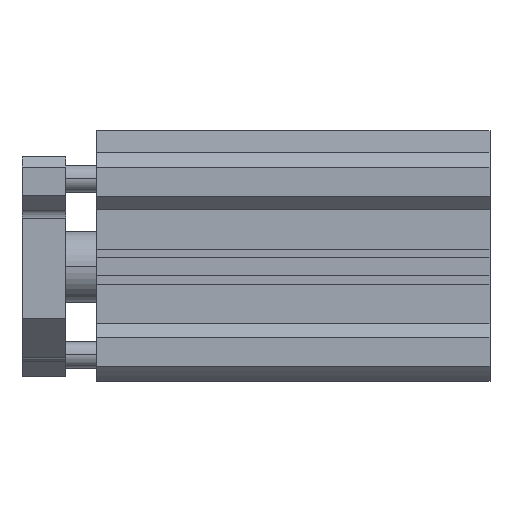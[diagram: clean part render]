
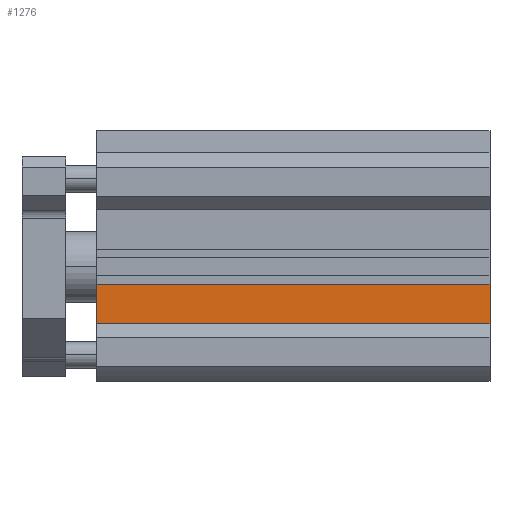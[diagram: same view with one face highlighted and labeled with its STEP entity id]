
A CAD part, top view. The second image highlights one B-rep face of the part: STEP entity #1276.
In plain terms, the highlighted planar face has unit normal (0, 0, 1).
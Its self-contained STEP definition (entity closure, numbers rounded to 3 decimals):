
#412 = VERTEX_POINT ( 'NONE', #2444 ) ;
#543 = VECTOR ( 'NONE', #1733, 1000. ) ;
#549 = CARTESIAN_POINT ( 'NONE',  ( 89.5, -4., 23. ) ) ;
#571 = LINE ( 'NONE', #549, #543 ) ;
#594 = PLANE ( 'NONE',  #948 ) ;
#743 = EDGE_CURVE ( 'NONE', #412, #3028, #571, .T. ) ;
#911 = VERTEX_POINT ( 'NONE', #3414 ) ;
#948 = AXIS2_PLACEMENT_3D ( 'NONE', #2167, #4560, #4905 ) ;
#989 = CARTESIAN_POINT ( 'NONE',  ( 89.5, -13., 23. ) ) ;
#1178 = DIRECTION ( 'NONE',  ( 0., -1., 0. ) ) ;
#1276 = ADVANCED_FACE ( 'NONE', ( #3334 ), #594, .F. ) ;
#1295 = ORIENTED_EDGE ( 'NONE', *, *, #4446, .F. ) ;
#1414 = VERTEX_POINT ( 'NONE', #3885 ) ;
#1506 = VECTOR ( 'NONE', #4047, 1000. ) ;
#1733 = DIRECTION ( 'NONE',  ( 0., -1., 0. ) ) ;
#1927 = VECTOR ( 'NONE', #4010, 1000. ) ;
#2006 = VECTOR ( 'NONE', #1178, 1000. ) ;
#2167 = CARTESIAN_POINT ( 'NONE',  ( 89.5, -4., 23. ) ) ;
#2444 = CARTESIAN_POINT ( 'NONE',  ( 89.5, -4., 23. ) ) ;
#2463 = CARTESIAN_POINT ( 'NONE',  ( 89.5, -13., 23. ) ) ;
#2483 = LINE ( 'NONE', #989, #1506 ) ;
#2509 = EDGE_CURVE ( 'NONE', #1414, #911, #3143, .T. ) ;
#2600 = ORIENTED_EDGE ( 'NONE', *, *, #743, .F. ) ;
#2630 = EDGE_CURVE ( 'NONE', #412, #1414, #3197, .T. ) ;
#3028 = VERTEX_POINT ( 'NONE', #2463 ) ;
#3095 = CARTESIAN_POINT ( 'NONE',  ( 0., -4., 23. ) ) ;
#3143 = LINE ( 'NONE', #3095, #2006 ) ;
#3197 = LINE ( 'NONE', #4859, #1927 ) ;
#3334 = FACE_OUTER_BOUND ( 'NONE', #5083, .T. ) ;
#3414 = CARTESIAN_POINT ( 'NONE',  ( 0., -13., 23. ) ) ;
#3862 = ORIENTED_EDGE ( 'NONE', *, *, #2630, .T. ) ;
#3885 = CARTESIAN_POINT ( 'NONE',  ( 0., -4., 23. ) ) ;
#4010 = DIRECTION ( 'NONE',  ( -1., 0., 0. ) ) ;
#4047 = DIRECTION ( 'NONE',  ( -1., 0., 0. ) ) ;
#4348 = ORIENTED_EDGE ( 'NONE', *, *, #2509, .T. ) ;
#4446 = EDGE_CURVE ( 'NONE', #3028, #911, #2483, .T. ) ;
#4560 = DIRECTION ( 'NONE',  ( 0., 0., -1. ) ) ;
#4859 = CARTESIAN_POINT ( 'NONE',  ( 89.5, -4., 23. ) ) ;
#4905 = DIRECTION ( 'NONE',  ( 0., -1., 0. ) ) ;
#5083 = EDGE_LOOP ( 'NONE', ( #4348, #1295, #2600, #3862 ) ) ;
